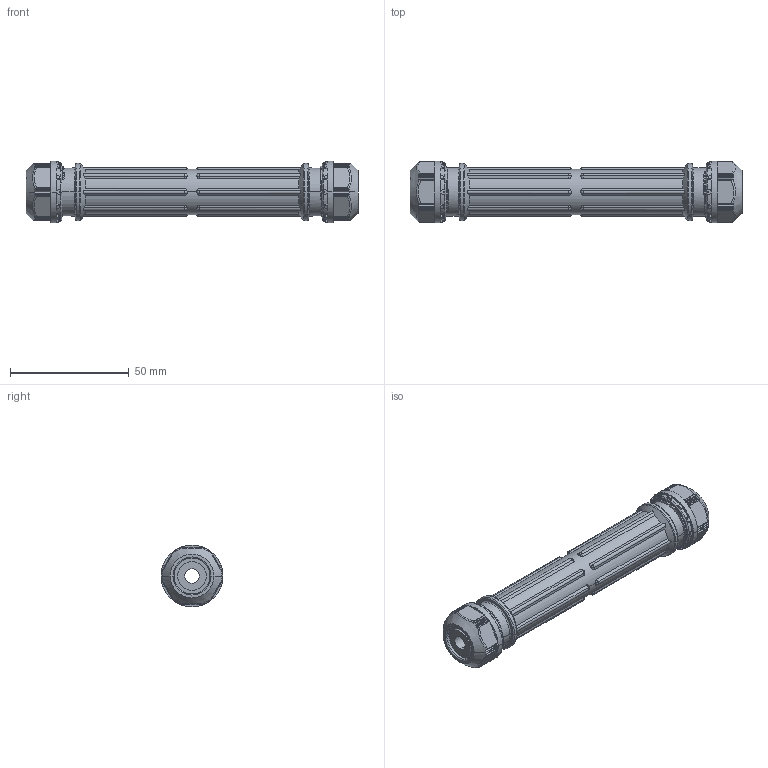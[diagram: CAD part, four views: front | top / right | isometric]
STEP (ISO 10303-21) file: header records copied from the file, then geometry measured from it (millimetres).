
FILE_DESCRIPTION(('Creo Elements/Direct Modeling STEP Export'),'2;1');
FILE_NAME('H03-0040-CL901_OA-QWL09SN.stp','2012-09-19T15:56:36',(''),(''),'Creo Elements/Direct Modeling STEP processor for AP214 (Solid Model)','Creo Elements/Direct Modeling 18.0B 02-Dec-2011 (C) Parametric Technology GmbH','');
FILE_SCHEMA(('AUTOMOTIVE_DESIGN { 1 0 10303 214 1 1 1 1 }'));
Length unit declared in the file: millimetre
Products named in the file (10): OA-QWL_本体; G13-09B_L; G13-09A_L; G13-09_L; L側; G13-09B_R; G13-09A_R; G13-09_R; R側; OA-QWL09SN
Assembly tree (9 placements, depth 4):
  OA-QWL09SN
    R側
      G13-09_R
        G13-09A_R
        G13-09B_R
    L側
      G13-09_L
        G13-09A_L
        G13-09B_L
    OA-QWL_本体
Bounding box: 139.63 x 26 x 26 mm (x, y, z)
Volume: 29308.8 mm3; surface area: 24187.5 mm2
Topology: 5 solids, 5 shells, 718 faces, 1869 edges, 1163 vertices
Faces by surface type: plane 302, cylinder 279, cone 56, torus 49, bspline 16, sphere 16
Entity records: 31785 total; most frequent: CARTESIAN_POINT 15320, ORIENTED_EDGE 3706, DIRECTION 2822, EDGE_CURVE 1853, VERTEX_POINT 1163, AXIS2_PLACEMENT_3D 1032, VECTOR 758, LINE 758
